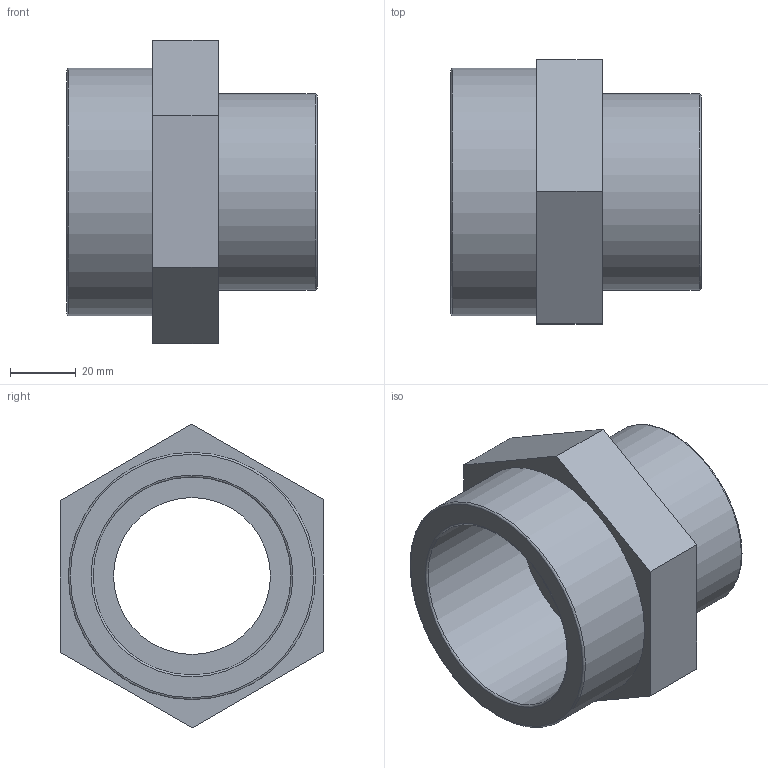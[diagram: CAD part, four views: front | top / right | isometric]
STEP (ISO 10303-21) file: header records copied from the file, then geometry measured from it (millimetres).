
FILE_DESCRIPTION(/* description */ ('PLASSON THR. REDUCING NIPPLE 2"-2.1/2" PVC'),/* implementation_level */ '2;1');
FILE_NAME(/* name */ 'C:\Dropbox\KIMPROJECTS-Inventor\99-16-3568-Processing\PVC Catalog 2017\051601\051601025020.ipt.stp',/* time_stamp */ '2017-12-07T16:01:03+02:00',/* author */ ('KIM'),/* organization */ (''),/* preprocessor_version */ 'ST-DEVELOPER v15.6',/* originating_system */ 'Autodesk Inventor 2015',/* authorisation */ '');
FILE_SCHEMA (('AUTOMOTIVE_DESIGN { 1 0 10303 214 3 1 1 }'));
Length unit declared in the file: millimetre
Products named in the file (1): 051601025020
Bounding box: 76 x 80.17 x 92.38 mm (x, y, z)
Volume: 131995.5 mm3; surface area: 37571.6 mm2
Topology: 1 solids, 1 shells, 19 faces, 38 edges, 24 vertices
Faces by surface type: plane 11, torus 4, cylinder 4
Full cylindrical faces by diameter (mm): 47.691 x1, 59.614 x1, 60.147 x1, 75.184 x1
Entity records: 480 total; most frequent: DIRECTION 82, CARTESIAN_POINT 74, ORIENTED_EDGE 60, EDGE_LOOP 32, AXIS2_PLACEMENT_3D 32, EDGE_CURVE 30, VERTEX_POINT 24, FACE_OUTER_BOUND 19
